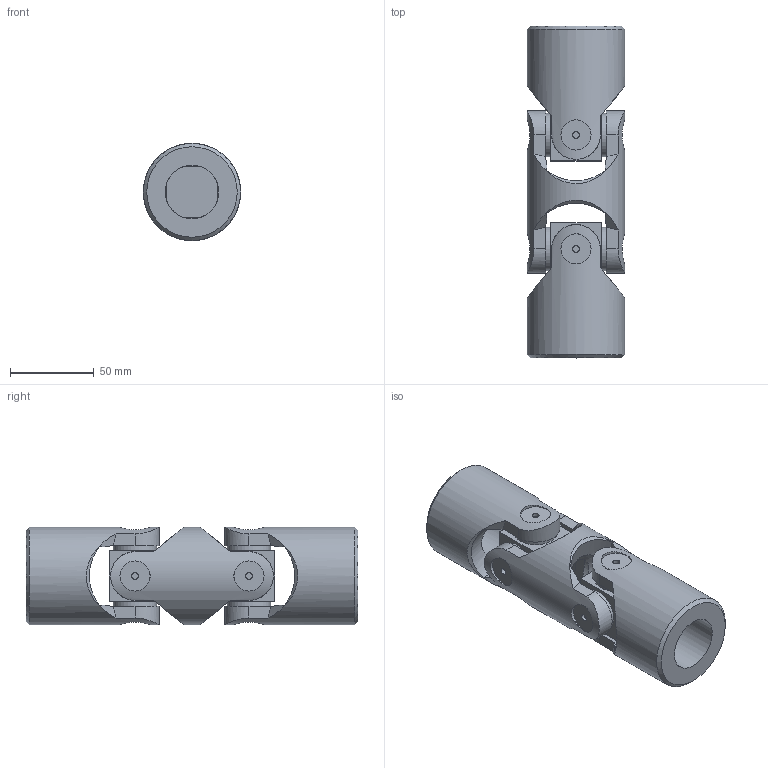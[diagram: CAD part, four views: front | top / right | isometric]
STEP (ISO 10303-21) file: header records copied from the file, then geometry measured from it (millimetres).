
FILE_DESCRIPTION(/* description */ (''),/* implementation_level */ '2;1');
FILE_NAME(/* name */ '\\SRV2016\Societa\Stefano\Disegni 3D\00Catalogo 3D\02Doppi GD-GBD\SG0D3200.stp',/* time_stamp */ '2021-11-23T15:53:07+01:00',/* author */ ('acquisti'),/* organization */ (''),/* preprocessor_version */ 'ST-DEVELOPER v15.6',/* originating_system */ 'Autodesk Inventor 2015',/* authorisation */ '');
FILE_SCHEMA (('AUTOMOTIVE_DESIGN { 1 0 10303 214 3 1 1 }'));
Length unit declared in the file: millimetre
Products named in the file (4): 6G MOD; 6G SFE; 6G1 MOS; Ø58_6GD1-00_SG0D3200
Assembly tree (5 placements, depth 2):
  Ø58_6GD1-00_SG0D3200
    6G MOD
    6G SFE  x2
    6G1 MOS  x2
Bounding box: 58 x 198 x 58 mm (x, y, z)
Volume: 329477.4 mm3; surface area: 73368.6 mm2
Topology: 5 solids, 5 shells, 133 faces, 321 edges, 218 vertices
Faces by surface type: plane 70, cylinder 39, cone 20, torus 4
Full cylindrical faces by diameter (mm): 4 x8, 18 x8, 26 x8, 32 x4, 58 x3
Entity records: 3288 total; most frequent: CARTESIAN_POINT 1232, ORIENTED_EDGE 394, DIRECTION 386, EDGE_CURVE 197, AXIS2_PLACEMENT_3D 169, VERTEX_POINT 151, EDGE_LOOP 136, FACE_OUTER_BOUND 92
